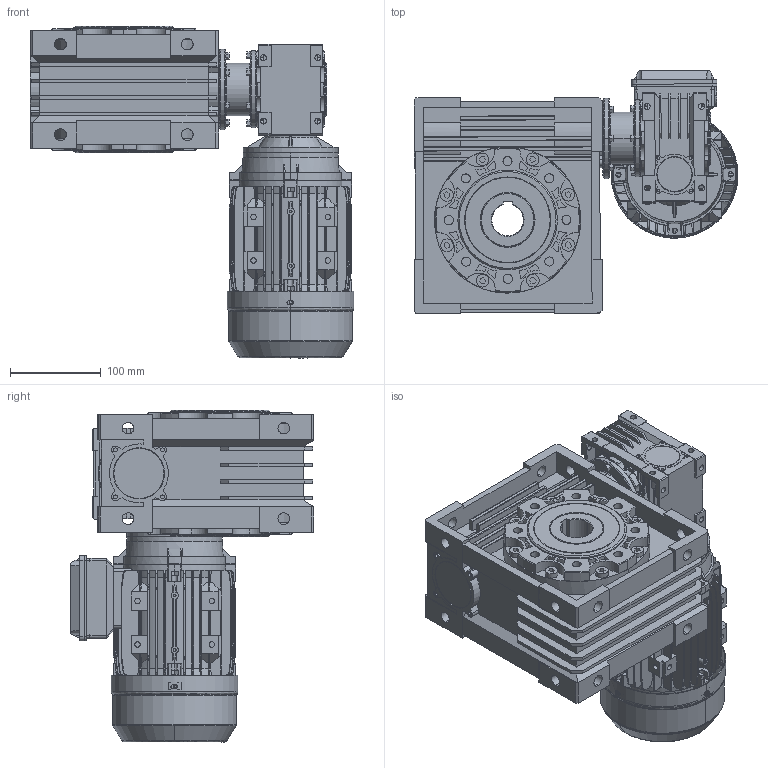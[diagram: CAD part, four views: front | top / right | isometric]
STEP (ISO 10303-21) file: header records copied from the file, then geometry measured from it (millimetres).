
FILE_DESCRIPTION (( 'STEP AP214' ), '1' );
FILE_NAME ('CMRV090-040-MX-71.STEP', '2018-10-11T12:46:17', ( '' ), ( '' ), 'SwSTEP 2.0', 'SolidWorks 2012', '' );
FILE_SCHEMA (( 'AUTOMOTIVE_DESIGN' ));
Products named in the file (18): Lüfterhaube_MS71; L黤terfl黦el_MS71; Klemmkastenoberteil_MS71; Klemmenkastenunterteil_MS71; B14-Flansch_MS71; B-Lagerschild_MS71; Gehäuse_MS71L; CMRV040-090-71B14; FCNDK 040火耳; FCNDK 090火耳; 8; 7; 6_1; 5; 4; 2; CMRV090-040-MX-71; MX71_B14
Assembly tree (17 placements, depth 3):
  CMRV090-040-MX-71
    CMRV040-090-71B14
      2
      4
      5
      6_1
      7
      8
      FCNDK 090火耳
      FCNDK 040火耳
    MX71_B14
      Gehäuse_MS71L
      B-Lagerschild_MS71
      B14-Flansch_MS71
      Klemmenkastenunterteil_MS71
      Klemmkastenoberteil_MS71
      L黤terfl黦el_MS71
      Lüfterhaube_MS71
Bounding box: 357.7 x 268.8 x 366.71 mm (x, y, z)
Volume: 6363212.5 mm3; surface area: 1177886.9 mm2
Topology: 15 solids, 17 shells, 3973 faces, 10719 edges, 7036 vertices
Faces by surface type: plane 2181, cylinder 1362, cone 276, bspline 150, torus 4
Entity records: 142101 total; most frequent: CARTESIAN_POINT 42245, ORIENTED_EDGE 21426, DIRECTION 19610, EDGE_CURVE 10713, VERTEX_POINT 7036, AXIS2_PLACEMENT_3D 6602, LINE 6406, VECTOR 6406
